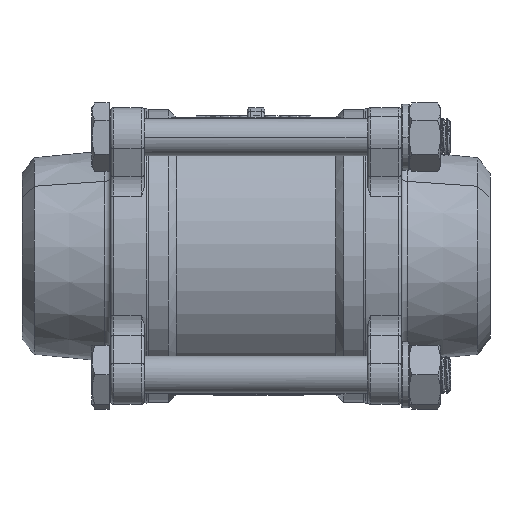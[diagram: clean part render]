
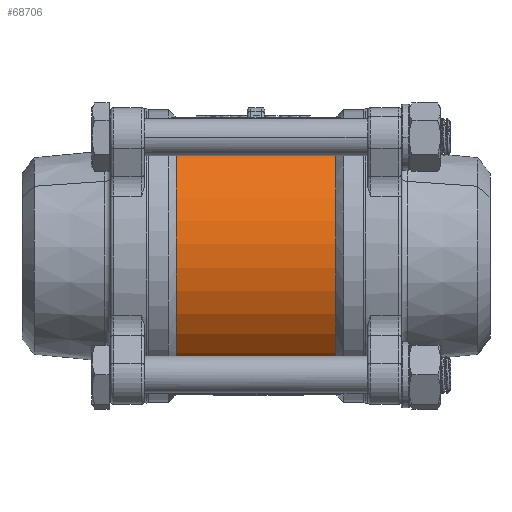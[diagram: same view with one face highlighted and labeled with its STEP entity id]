
A CAD part, front view. The second image highlights one B-rep face of the part: STEP entity #68706.
In plain terms, the highlighted cylindrical face has radius 44.5 mm (diameter 89 mm), a partial arc.
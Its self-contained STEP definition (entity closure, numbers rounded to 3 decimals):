
#37451 = CARTESIAN_POINT ( 'NONE',  ( -25.6, -12.541, -42.696 ) ) ;
#37799 = CARTESIAN_POINT ( 'NONE',  ( 25.6, -12.541, 42.696 ) ) ;
#38291 = CARTESIAN_POINT ( 'NONE',  ( -25.6, -12.541, 42.696 ) ) ;
#38294 = DIRECTION ( 'NONE',  ( 0., 0., 1. ) ) ;
#38296 = DIRECTION ( 'NONE',  ( -1., 0., 0. ) ) ;
#38297 = CARTESIAN_POINT ( 'NONE',  ( -25.6, 0., 0. ) ) ;
#38298 = AXIS2_PLACEMENT_3D ( 'NONE', #38297, #38296, #38294 ) ;
#38299 = CIRCLE ( 'NONE', #38298, 44.5 ) ;
#38632 = DIRECTION ( 'NONE',  ( 0., 0., 1. ) ) ;
#38634 = DIRECTION ( 'NONE',  ( -1., 0., 0. ) ) ;
#38635 = CARTESIAN_POINT ( 'NONE',  ( 25.6, 0., 0. ) ) ;
#38636 = AXIS2_PLACEMENT_3D ( 'NONE', #38635, #38634, #38632 ) ;
#38637 = CIRCLE ( 'NONE', #38636, 44.5 ) ;
#38638 = CARTESIAN_POINT ( 'NONE',  ( 25.6, -12.541, -42.696 ) ) ;
#48567 = DIRECTION ( 'NONE',  ( 1., 0., 0. ) ) ;
#48568 = VECTOR ( 'NONE', #48567, 1000. ) ;
#48569 = CARTESIAN_POINT ( 'NONE',  ( -34.6, -12.541, -42.696 ) ) ;
#48570 = LINE ( 'NONE', #48569, #48568 ) ;
#48884 = DIRECTION ( 'NONE',  ( 0., 0., 1. ) ) ;
#48885 = DIRECTION ( 'NONE',  ( -1., 0., 0. ) ) ;
#48886 = CARTESIAN_POINT ( 'NONE',  ( -34.6, 0., 0. ) ) ;
#48887 = AXIS2_PLACEMENT_3D ( 'NONE', #48886, #48885, #48884 ) ;
#48888 = CYLINDRICAL_SURFACE ( 'NONE', #48887, 44.5 ) ;
#48889 = FACE_OUTER_BOUND ( 'NONE', #68709, .T. ) ;
#48890 = DIRECTION ( 'NONE',  ( 1., 0., 0. ) ) ;
#48891 = VECTOR ( 'NONE', #48890, 1000. ) ;
#48892 = CARTESIAN_POINT ( 'NONE',  ( -34.6, -12.541, 42.696 ) ) ;
#48893 = LINE ( 'NONE', #48892, #48891 ) ;
#55364 = VERTEX_POINT ( 'NONE', #37451 ) ;
#55438 = VERTEX_POINT ( 'NONE', #37799 ) ;
#55549 = EDGE_CURVE ( 'NONE', #55364, #55551, #38299, .T. ) ;
#55551 = VERTEX_POINT ( 'NONE', #38291 ) ;
#55655 = EDGE_CURVE ( 'NONE', #55659, #55438, #38637, .T. ) ;
#55659 = VERTEX_POINT ( 'NONE', #38638 ) ;
#68599 = ORIENTED_EDGE ( 'NONE', *, *, #68601, .T. ) ;
#68601 = EDGE_CURVE ( 'NONE', #55364, #55659, #48570, .T. ) ;
#68603 = ORIENTED_EDGE ( 'NONE', *, *, #55655, .T. ) ;
#68605 = ORIENTED_EDGE ( 'NONE', *, *, #68703, .F. ) ;
#68607 = ORIENTED_EDGE ( 'NONE', *, *, #55549, .F. ) ;
#68703 = EDGE_CURVE ( 'NONE', #55551, #55438, #48893, .T. ) ;
#68706 = ADVANCED_FACE ( 'NONE', ( #48889 ), #48888, .T. ) ;
#68709 = EDGE_LOOP ( 'NONE', ( #68599, #68603, #68605, #68607 ) ) ;
